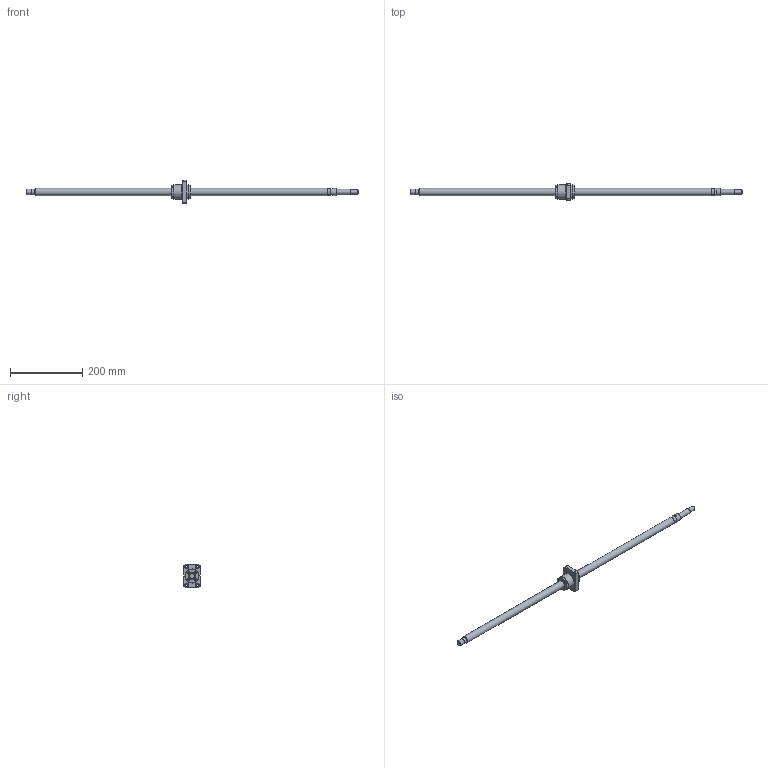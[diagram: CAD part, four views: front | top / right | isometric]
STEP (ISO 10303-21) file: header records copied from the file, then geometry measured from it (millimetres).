
FILE_DESCRIPTION(/* description */ ('STEP AP203'),/* implementation_level */ '2;1');
FILE_NAME(/* name */ 'BNK2020-3.6G0+920LC5Y(4310)',/* time_stamp */ '2024-07-09T09:40:28+02:00',/* author */ ('License CC BY-ND 4.0'),/* organization */ ('CADENAS'),/* preprocessor_version */ 'ST-DEVELOPER v19.3',/* originating_system */ 'PARTsolutions',/* authorisation */ ' ');
FILE_SCHEMA (('CONFIG_CONTROL_DESIGN'));
Length unit declared in the file: millimetre
Products named in the file (3): BNK2020-3.6G0+920LC5Y(4310); BNK 2020-3.6G0+920LC5Y Shaft; BNK 2020-3.6G0+920LC5Y0 Nut
Assembly tree (2 placements, depth 2):
  BNK2020-3.6G0+920LC5Y(4310)
    BNK 2020-3.6G0+920LC5Y Shaft
    BNK 2020-3.6G0+920LC5Y0 Nut
Bounding box: 920 x 46 x 66 mm (x, y, z)
Volume: 334051 mm3; surface area: 74497.8 mm2
Topology: 2 solids, 2 shells, 136 faces, 309 edges, 199 vertices
Faces by surface type: plane 75, cylinder 35, cone 20, torus 6
Full cylindrical faces by diameter (mm): 5.188 x1, 5.5 x4, 6.6 x4, 11 x4, 12 x1, 14.3 x1, 15 x3, 18 x1, 19.5 x1, 20 x2, 35.1 x1, 38 x2, 39 x2
Entity records: 3695 total; most frequent: CARTESIAN_POINT 671, DIRECTION 626, ORIENTED_EDGE 528, EDGE_CURVE 264, AXIS2_PLACEMENT_3D 247, FACE_BOUND 210, EDGE_LOOP 209, VERTEX_POINT 196
